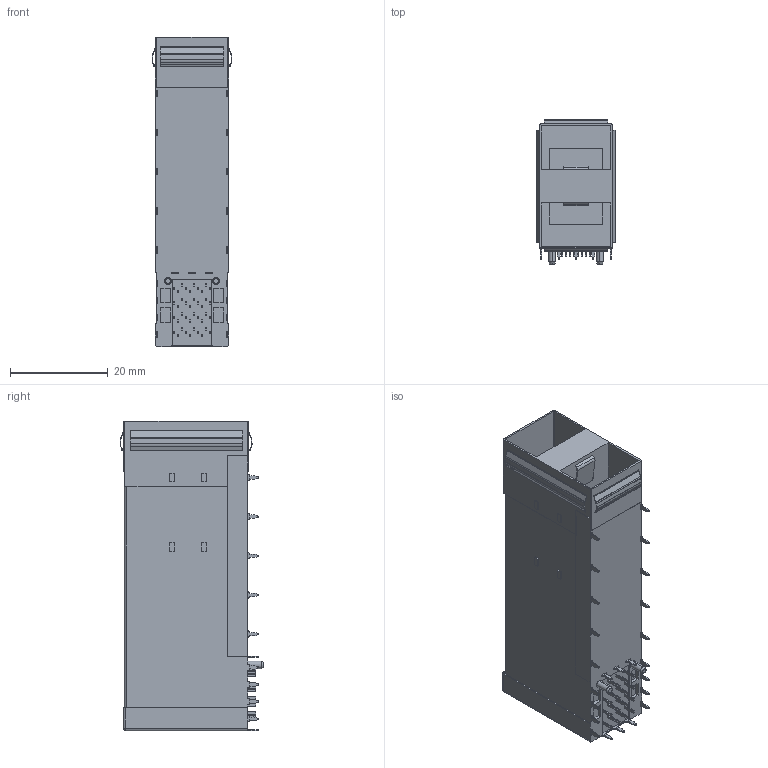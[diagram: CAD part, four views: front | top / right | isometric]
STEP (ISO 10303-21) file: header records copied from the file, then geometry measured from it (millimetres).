
FILE_DESCRIPTION (( 'STEP AP214' ), '1' );
FILE_NAME ('SFP28 2X1 无灯 3D.STEP', '2025-06-12T09:00:10', ( '桑三博客' ), ( 'Www.SangSan.Cn' ), 'SwSTEP 2.0', 'SolidWorks 2018', '' );
FILE_SCHEMA (( 'AUTOMOTIVE_DESIGN' ));
Length unit declared in the file: millimetre
Products named in the file (1): SFP28 2X1 拸腑 3D
Bounding box: 16.31 x 29.38 x 63.25 mm (x, y, z)
Volume: 12163.4 mm3; surface area: 11385.3 mm2
Topology: 1 solids, 1 shells, 940 faces, 2689 edges, 1824 vertices
Faces by surface type: plane 623, cylinder 311, cone 4, sphere 2
Entity records: 30807 total; most frequent: CARTESIAN_POINT 5452, ORIENTED_EDGE 5374, DIRECTION 5199, EDGE_CURVE 2687, VECTOR 2057, LINE 2057, VERTEX_POINT 1824, AXIS2_PLACEMENT_3D 1571
